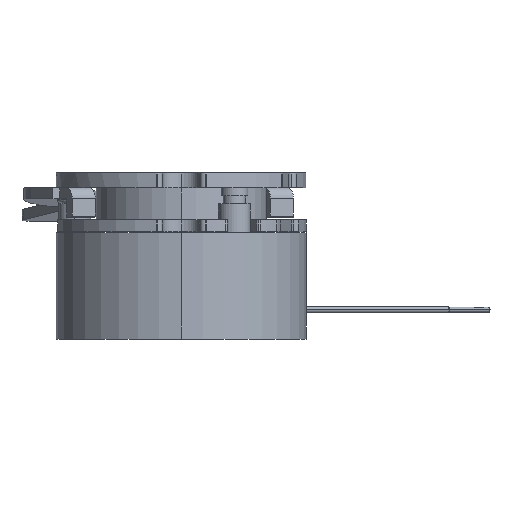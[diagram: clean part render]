
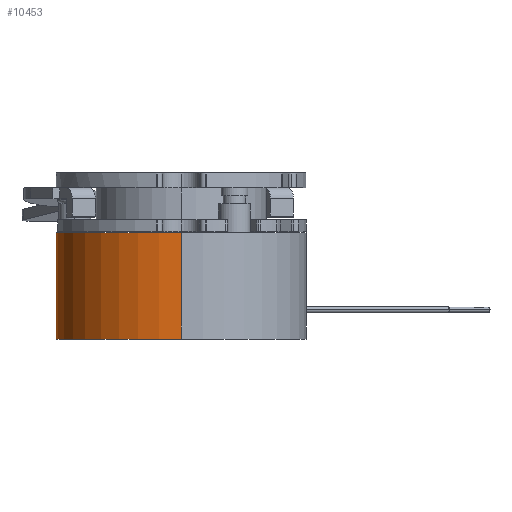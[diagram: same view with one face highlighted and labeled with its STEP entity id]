
A CAD part, left-side view. The second image highlights one B-rep face of the part: STEP entity #10453.
In plain terms, the highlighted cylindrical face has radius 23.5 mm (diameter 47 mm), a partial arc.
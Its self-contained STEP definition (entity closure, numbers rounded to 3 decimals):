
#196 = CARTESIAN_POINT ( 'NONE',  ( 0., 0., 20. ) ) ;
#197 = DIRECTION ( 'NONE',  ( 0., 0., -1. ) ) ;
#205 = DIRECTION ( 'NONE',  ( -1., 0., 0. ) ) ;
#599 = CARTESIAN_POINT ( 'NONE',  ( -23.5, 0., 0. ) ) ;
#603 = CARTESIAN_POINT ( 'NONE',  ( -23.5, 0., 20. ) ) ;
#1889 = LINE ( 'NONE', #8323, #1891 ) ;
#1891 = VECTOR ( 'NONE', #8324, 1000. ) ;
#1913 = CIRCLE ( 'NONE', #5574, 23.5 ) ;
#1916 = CIRCLE ( 'NONE', #5575, 23.5 ) ;
#3590 = ORIENTED_EDGE ( 'NONE', *, *, #14212, .F. ) ;
#3591 = ORIENTED_EDGE ( 'NONE', *, *, #14194, .T. ) ;
#3592 = ORIENTED_EDGE ( 'NONE', *, *, #14214, .T. ) ;
#3593 = ORIENTED_EDGE ( 'NONE', *, *, #5927, .F. ) ;
#5574 = AXIS2_PLACEMENT_3D ( 'NONE', #8389, #8390, #8391 ) ;
#5575 = AXIS2_PLACEMENT_3D ( 'NONE', #8393, #8394, #8395 ) ;
#5927 = EDGE_CURVE ( 'NONE', #10553, #10537, #12462, .T. ) ;
#7634 = CARTESIAN_POINT ( 'NONE',  ( 23.5, 0., 0. ) ) ;
#7939 = FACE_OUTER_BOUND ( 'NONE', #10237, .T. ) ;
#7947 = CYLINDRICAL_SURFACE ( 'NONE', #11405, 23.5 ) ;
#8323 = CARTESIAN_POINT ( 'NONE',  ( 23.5, 0., 20. ) ) ;
#8324 = DIRECTION ( 'NONE',  ( 0., 0., -1. ) ) ;
#8389 = CARTESIAN_POINT ( 'NONE',  ( 0., 0., 20. ) ) ;
#8390 = DIRECTION ( 'NONE',  ( 0., 0., 1. ) ) ;
#8391 = DIRECTION ( 'NONE',  ( 1., 0., 0. ) ) ;
#8393 = CARTESIAN_POINT ( 'NONE',  ( 0., 0., 0. ) ) ;
#8394 = DIRECTION ( 'NONE',  ( 0., 0., 1. ) ) ;
#8395 = DIRECTION ( 'NONE',  ( 1., 0., 0. ) ) ;
#8508 = VERTEX_POINT ( 'NONE', #12914 ) ;
#10237 = EDGE_LOOP ( 'NONE', ( #3590, #3591, #3592, #3593 ) ) ;
#10453 = ADVANCED_FACE ( 'NONE', ( #7939 ), #7947, .T. ) ;
#10537 = VERTEX_POINT ( 'NONE', #599 ) ;
#10553 = VERTEX_POINT ( 'NONE', #603 ) ;
#11405 = AXIS2_PLACEMENT_3D ( 'NONE', #196, #197, #205 ) ;
#12462 = LINE ( 'NONE', #12811, #12465 ) ;
#12465 = VECTOR ( 'NONE', #12812, 1000. ) ;
#12811 = CARTESIAN_POINT ( 'NONE',  ( -23.5, 0., 20. ) ) ;
#12812 = DIRECTION ( 'NONE',  ( 0., 0., -1. ) ) ;
#12914 = CARTESIAN_POINT ( 'NONE',  ( 23.5, 0., 20. ) ) ;
#14194 = EDGE_CURVE ( 'NONE', #8508, #14728, #1889, .T. ) ;
#14212 = EDGE_CURVE ( 'NONE', #8508, #10553, #1913, .T. ) ;
#14214 = EDGE_CURVE ( 'NONE', #14728, #10537, #1916, .T. ) ;
#14728 = VERTEX_POINT ( 'NONE', #7634 ) ;
